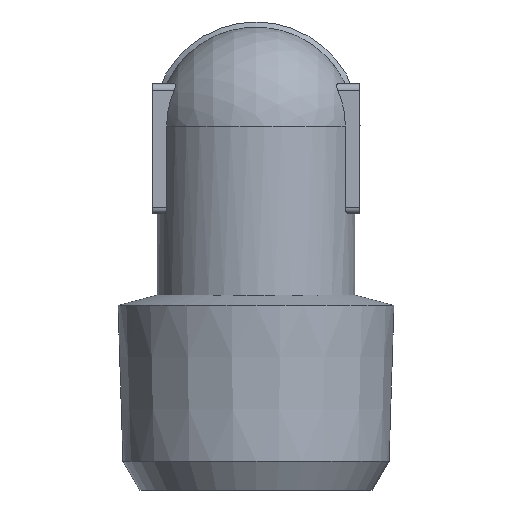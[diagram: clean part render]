
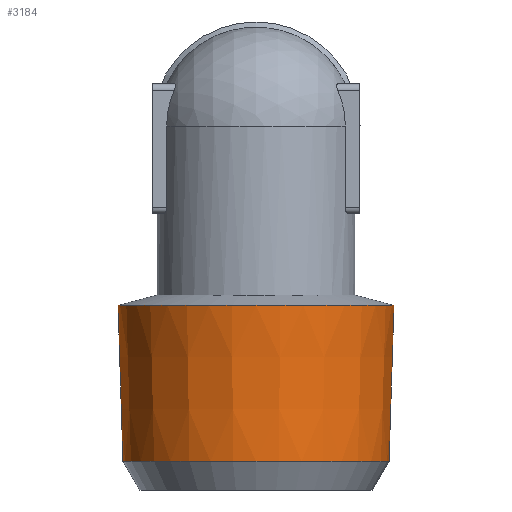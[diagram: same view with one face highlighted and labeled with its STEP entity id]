
A CAD part, left-side view. The second image highlights one B-rep face of the part: STEP entity #3184.
In plain terms, the highlighted conical face has half-angle 1.79 degrees and reference radius 10.634 mm.
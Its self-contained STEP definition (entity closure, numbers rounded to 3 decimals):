
#1750=CONICAL_SURFACE('',#3013,10.634,1.79);
#1798=ORIENTED_EDGE('',*,*,#2272,.F.);
#1799=ORIENTED_EDGE('',*,*,#2273,.F.);
#2101=CIRCLE('',#3014,10.609);
#2102=CIRCLE('',#3015,10.234);
#2161=VERTEX_POINT('',#3681);
#2162=VERTEX_POINT('',#3683);
#2272=EDGE_CURVE('',#2161,#2161,#2101,.T.);
#2273=EDGE_CURVE('',#2162,#2162,#2102,.T.);
#2429=EDGE_LOOP('',(#1798));
#2430=EDGE_LOOP('',(#1799));
#2535=FACE_BOUND('',#2429,.T.);
#2536=FACE_BOUND('',#2430,.T.);
#2654=DIRECTION('',(0.,1.,0.));
#2655=DIRECTION('',(0.,0.,1.));
#2656=DIRECTION('',(0.,1.,0.));
#2657=DIRECTION('',(0.,0.,10.609));
#2658=DIRECTION('',(0.,-1.,0.));
#2659=DIRECTION('',(0.,0.,10.234));
#3013=AXIS2_PLACEMENT_3D('',#3680,#2654,#2655);
#3014=AXIS2_PLACEMENT_3D('',#3682,#2656,#2657);
#3015=AXIS2_PLACEMENT_3D('',#3684,#2658,#2659);
#3184=ADVANCED_FACE('',(#2535,#2536),#1750,.T.);
#3680=CARTESIAN_POINT('',(28.235,32.09,0.));
#3681=CARTESIAN_POINT('',(28.235,31.284,10.609));
#3682=CARTESIAN_POINT('',(28.235,31.284,0.));
#3683=CARTESIAN_POINT('',(28.235,19.29,10.234));
#3684=CARTESIAN_POINT('',(28.235,19.29,0.));
